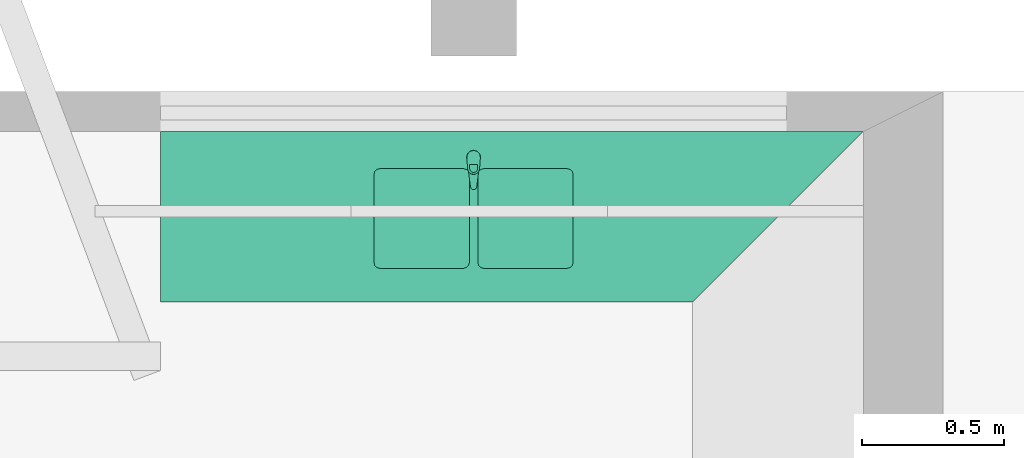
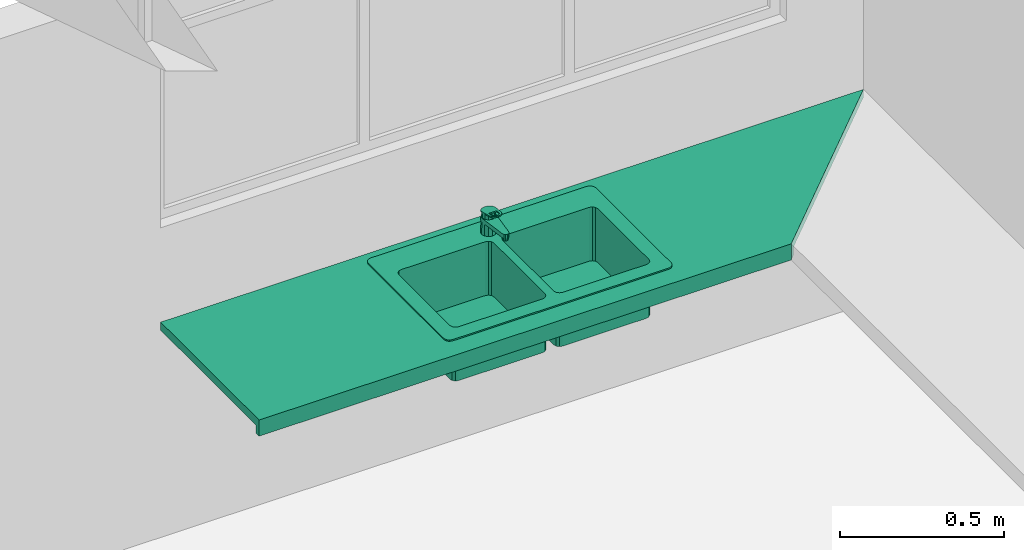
# One storey, part 15 of 16: 1 flow terminal.
"""IFC2X3 building model written with IfcOpenShell, lengths in millimetres."""

import ifcopenshell
import ifcopenshell.guid

model = None  # the IFC model being written
_history = None  # IfcOwnerHistory: only IFC2X3 demands one
_inside = {}  # id of a spatial element -> (the spatial element, [elements in it])
_under = {}  # id of a project, library or spatial element -> (it, [spatial elements below it])
_declared = {}  # id of a project -> (the project, [libraries it declares])
_typed = {}  # id of a type object -> (the type object, [elements of that type])
_made_of = {}  # id of a material, layer set ... -> (it, [elements and type objects made of it])


def new_model(schema):
    """Start an empty IFC model of exactly this schema.

    Asked for "IFC4X3", IfcOpenShell would pick the latest addendum, in which some entities
    have other attributes; the version numbers below select the first issue.
    IFC2X3 requires an IfcOwnerHistory on every rooted entity: one is made here for all.
    """
    global model, _history
    if schema == "IFC4X3":
        model = ifcopenshell.file(schema_version=(4, 3, 0, 0))
    else:
        model = ifcopenshell.file(schema=schema)
    _inside.clear()
    _under.clear()
    _declared.clear()
    _typed.clear()
    _made_of.clear()
    _history = None
    if model.schema == "IFC2X3":
        org = make("IfcOrganization", Name="unknown")
        user = make(
            "IfcPersonAndOrganization",
            ThePerson=make("IfcPerson", FamilyName="unknown"),
            TheOrganization=org,
        )
        app = make(
            "IfcApplication",
            ApplicationDeveloper=org,
            Version="unknown",
            ApplicationFullName="unknown",
            ApplicationIdentifier="unknown",
        )
        _history = make(
            "IfcOwnerHistory",
            OwningUser=user,
            OwningApplication=app,
            ChangeAction="ADDED",
            CreationDate=0,
        )
    return model


def make(cls, **values):
    """One entity of the class cls with the attributes given. An attribute that is None is left unset."""
    return model.create_entity(
        cls, **{name: value for name, value in values.items() if value is not None}
    )


def entity(cls, *values):
    """Any entity or typed value of the class cls, its attributes in the order of the schema. None: left unset."""
    e = model.create_entity(cls)
    for i, value in enumerate(values):
        if value is not None:
            e[i] = value
    return e


def rooted(cls, **values):
    """An entity with a GlobalId (a new one), such as an element, a storey or a relation."""
    return make(cls, GlobalId=ifcopenshell.guid.new(), OwnerHistory=_history, **values)


def si_unit(unit_type, name, prefix=None):
    """IfcSIUnit, for example si_unit("LENGTHUNIT", "METRE", prefix="MILLI")."""
    return make("IfcSIUnit", UnitType=unit_type, Prefix=prefix, Name=name)


def converted_unit(unit_type, name, factor, base, dimensions=None, offset=None):
    """IfcConversionBasedUnit, such as the inch: factor (a typed value) times the base unit."""
    return make(
        "IfcConversionBasedUnit"
        if offset is None
        else "IfcConversionBasedUnitWithOffset",
        ConversionOffset=offset,
        Dimensions=None
        if dimensions is None
        else entity("IfcDimensionalExponents", *dimensions),
        UnitType=unit_type,
        Name=name,
        ConversionFactor=make(
            "IfcMeasureWithUnit", ValueComponent=factor, UnitComponent=base
        ),
    )


def derived_unit(unit_type, elements):
    """IfcDerivedUnit: a product of units, each with its exponent."""
    return make(
        "IfcDerivedUnit",
        Elements=[
            make("IfcDerivedUnitElement", Unit=unit, Exponent=power)
            for unit, power in elements
        ],
        UnitType=unit_type,
    )


def money_unit(currency):
    """IfcMonetaryUnit."""
    return make("IfcMonetaryUnit", Currency=currency)


def assignment(units):
    """IfcUnitAssignment: the units of a project."""
    return None if units is None else make("IfcUnitAssignment", Units=units)


def point(xyz):
    """IfcCartesianPoint."""
    return None if xyz is None else make("IfcCartesianPoint", Coordinates=xyz)


def direction(xyz):
    """IfcDirection."""
    return None if xyz is None else make("IfcDirection", DirectionRatios=xyz)


def frame(location, z_axis=None, x_axis=None):
    """IfcAxis2Placement3D, a coordinate frame: its origin and axes. An axis left out is left unset."""
    return make(
        "IfcAxis2Placement3D",
        Location=point(location),
        Axis=direction(z_axis),
        RefDirection=direction(x_axis),
    )


def origin_with_axes():
    """The frame at (0, 0, 0) with the z axis (0, 0, 1) and the x axis (1, 0, 0) written out."""
    return frame((0.0, 0.0, 0.0), z_axis=(0.0, 0.0, 1.0), x_axis=(1.0, 0.0, 0.0))


def place(relative_to, where):
    """IfcLocalPlacement: puts the frame where relative to a parent placement (None: the world)."""
    return make(
        "IfcLocalPlacement", PlacementRelTo=relative_to, RelativePlacement=where
    )


def context(
    kind, dimensions, precision=None, world=None, true_north=None, identifier=None
):
    """IfcGeometricRepresentationContext, for example the 3D "Model" context."""
    return make(
        "IfcGeometricRepresentationContext",
        ContextIdentifier=identifier,
        ContextType=kind,
        CoordinateSpaceDimension=dimensions,
        Precision=precision,
        WorldCoordinateSystem=world,
        TrueNorth=true_north,
    )


def subcontext(parent, identifier, kind, view, scale=None):
    """IfcGeometricRepresentationSubContext, for example "Body" below "Model"."""
    return make(
        "IfcGeometricRepresentationSubContext",
        ContextIdentifier=identifier,
        ContextType=kind,
        ParentContext=parent,
        TargetScale=scale,
        TargetView=view,
    )


def project(units=None, contexts=None):
    """IfcProject with its units and contexts."""
    return rooted(
        "IfcProject",
        Name="project",
        RepresentationContexts=contexts,
        UnitsInContext=assignment(units),
    )


def spatial(cls, under=None, at=None, **own):
    """A site, building, storey or space (cls), placed at a placement, below another one or the project."""
    s = rooted(cls, ObjectPlacement=at, **own)
    if under is not None:
        _under.setdefault(under.id(), (under, []))[1].append(s)
    return s


def faces_of(points, faces, orient=None, outer=None):
    """IfcFace entities. A face is a list of loops; a loop is a list of indices into points, from 0.

    orient and outer hold one flag for each loop. By default every Orientation is true, the
    first loop of a face is its IfcFaceOuterBound and the others are IfcFaceBound.
    """
    made = []
    for i, loops in enumerate(faces):
        bounds = []
        for j, loop in enumerate(loops):
            is_outer = j == 0 if outer is None else outer[i][j]
            bounds.append(
                make(
                    "IfcFaceOuterBound" if is_outer else "IfcFaceBound",
                    Bound=make("IfcPolyLoop", Polygon=[points[k] for k in loop]),
                    Orientation=True if orient is None else orient[i][j],
                )
            )
        made.append(make("IfcFace", Bounds=bounds))
    return made


def open_shell(faces, orient=None, outer=None):
    """The faces of one IfcOpenShell. surface_model builds it on its shared points."""
    return ("IfcOpenShell", faces, orient, outer)


def faceted_brep(points, faces, orient=None, outer=None, voids=None):
    """IfcFacetedBrep: a solid bounded by flat faces; with voids (closed shells), ...WithVoids."""
    shared = [point(p) for p in points]
    hull = make("IfcClosedShell", CfsFaces=faces_of(shared, faces, orient, outer))
    if voids is None:
        return make("IfcFacetedBrep", Outer=hull)
    return make(
        "IfcFacetedBrepWithVoids",
        Outer=hull,
        Voids=[
            make(cls, CfsFaces=faces_of(shared, fs, o, b)) for cls, fs, o, b in voids
        ],
    )


def surface_model(cls, points, shells):
    """IfcFaceBasedSurfaceModel or IfcShellBasedSurfaceModel (cls): surfaces that need not close."""
    shared = [point(p) for p in points]
    made = [make(c, CfsFaces=faces_of(shared, fs, o, b)) for c, fs, o, b in shells]
    if cls == "IfcFaceBasedSurfaceModel":
        return make(cls, FbsmFaces=made)
    return make(cls, SbsmBoundary=made)


def shape(context_of_items, identifier, shape_type, items):
    """IfcShapeRepresentation: the items that make up one representation, for example the "Body"."""
    return make(
        "IfcShapeRepresentation",
        ContextOfItems=context_of_items,
        RepresentationIdentifier=identifier,
        RepresentationType=shape_type,
        Items=items,
    )


def made_of(thing, what):
    """Note that an element or type object is made of a material, layer set ...; save() writes the relation."""
    if what is not None:
        _made_of.setdefault(what.id(), (what, []))[1].append(thing)
    return thing


def type_object(cls, material=None, **own):
    """A type object (cls), such as IfcWallType, which elements share."""
    return made_of(rooted(cls, **own), material)


def element(
    cls,
    number,
    at=None,
    inside=None,
    cuts=None,
    type_object=None,
    material=None,
    context=None,
    identifier="Body",
    shape_type=None,
    held_by="IfcProductDefinitionShape",
    body=None,
    shapes=None,
    **own,
):
    """One element of the class cls, such as IfcWall. Its Tag is "e" and its number.

    at: its placement. inside: the storey or other place that contains it. cuts: it is an
    opening in that element (IfcRelVoidsElement). A single representation is given by context,
    identifier, shape_type and body (its items); several are given by shapes. held_by: the class
    of the entity that holds the representations. save() writes the other relations.
    """
    e = rooted(cls, Tag="e%d" % number, ObjectPlacement=at, **own)
    if body is not None:
        shapes = [shape(context, identifier, shape_type, body)]
    if shapes is not None:
        e.Representation = make(held_by, Representations=shapes)
    if inside is not None:
        _inside.setdefault(inside.id(), (inside, []))[1].append(e)
    if cuts is not None:
        rooted(
            "IfcRelVoidsElement", RelatingBuildingElement=cuts, RelatedOpeningElement=e
        )
    if type_object is not None:
        _typed.setdefault(type_object.id(), (type_object, []))[1].append(e)
    return made_of(e, material)


def aggregate(whole, parts):
    """IfcRelAggregates: a whole, such as a stair, and the parts it consists of."""
    return rooted("IfcRelAggregates", RelatingObject=whole, RelatedObjects=parts)


def save(model, path):
    """Write the relations noted so far, then the file.

    IfcRelAggregates (storeys below a building ...), IfcRelContainedInSpatialStructure (elements
    in a storey), IfcRelDefinesByType, IfcRelAssociatesMaterial and IfcRelDeclares: one each for
    every whole, place, type object, material and project.
    """
    for whole, parts in _under.values():
        aggregate(whole, parts)
    for where, things in _inside.values():
        rooted(
            "IfcRelContainedInSpatialStructure",
            RelatedElements=things,
            RelatingStructure=where,
        )
    for kind, things in _typed.values():
        rooted("IfcRelDefinesByType", RelatedObjects=things, RelatingType=kind)
    for what, things in _made_of.values():
        rooted("IfcRelAssociatesMaterial", RelatedObjects=things, RelatingMaterial=what)
    for by, libraries in _declared.values():
        rooted("IfcRelDeclares", RelatingContext=by, RelatedDefinitions=libraries)
    model.write(path)


model = new_model("IFC2X3")

# Units and contexts
model_context = context("Model", 3, precision=0.01, world=origin_with_axes(), true_north=direction((0.293984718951, 0.955810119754)))
body_context = subcontext(model_context, "Body", "Model", "MODEL_VIEW")
ifc_project = project(units=[si_unit("LENGTHUNIT", "METRE", prefix="MILLI"), si_unit("AREAUNIT", "SQUARE_METRE"), si_unit("VOLUMEUNIT", "CUBIC_METRE"), converted_unit("PLANEANGLEUNIT", "DEGREE", entity("IfcPlaneAngleMeasure", 0.0174532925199), si_unit("PLANEANGLEUNIT", "RADIAN"), dimensions=[0, 0, 0, 0, 0, 0, 0]), si_unit("SOLIDANGLEUNIT", "STERADIAN"), money_unit("USD"), converted_unit("TIMEUNIT", "Year", entity("IfcTimeMeasure", 31556926.0), si_unit("TIMEUNIT", "SECOND"), dimensions=[0, 0, 1, 0, 0, 0, 0]), si_unit("MASSUNIT", "GRAM", prefix="KILO"), si_unit("THERMODYNAMICTEMPERATUREUNIT", "DEGREE_CELSIUS"), si_unit("LUMINOUSINTENSITYUNIT", "LUMEN"), si_unit("ENERGYUNIT", "JOULE", prefix="MEGA"), derived_unit("THERMALCONDUCTANCEUNIT", [(si_unit("POWERUNIT", "WATT"), 1), (si_unit("LENGTHUNIT", "METRE"), -1), (si_unit("THERMODYNAMICTEMPERATUREUNIT", "KELVIN"), -1)]), derived_unit("SPECIFICHEATCAPACITYUNIT", [(si_unit("ENERGYUNIT", "JOULE"), 1), (si_unit("MASSUNIT", "GRAM", prefix="KILO"), -1), (si_unit("THERMODYNAMICTEMPERATUREUNIT", "KELVIN"), -1)]), derived_unit("MASSDENSITYUNIT", [(si_unit("MASSUNIT", "GRAM", prefix="KILO"), 1), (si_unit("VOLUMEUNIT", "CUBIC_METRE"), -1)])], contexts=[model_context])

# Site, building, storey
site_placement = place(None, origin_with_axes())
site = spatial("IfcSite", under=ifc_project, at=site_placement, Name="Local", CompositionType="ELEMENT")
building_placement = place(site_placement, origin_with_axes())
building = spatial("IfcBuilding", under=site, at=building_placement, Name="Construção", CompositionType="ELEMENT")
storey_placement = place(building_placement, origin_with_axes())
storey = spatial("IfcBuildingStorey", under=building, at=storey_placement, Name="Pavimento Térreo", CompositionType="ELEMENT", Elevation=0.0)

# Flow terminal
sanitary_terminal_type = type_object("IfcSanitaryTerminalType", Name="Bancada 23", PredefinedType="SINK")
flow_terminal_placement = place(storey_placement, frame((12729.6450727, 12660.6321979, 0.0), z_axis=(0.0, 0.0, 1.0), x_axis=(1.0, 0.0, 0.0)))
element("IfcFlowTerminal", 1, at=flow_terminal_placement, inside=storey, type_object=sanitary_terminal_type, Name="Bancada-cozinha", context=body_context, shape_type="SurfaceModel", body=[
    surface_model("IfcShellBasedSurfaceModel", [(770.0, -480.95, 705.0), (1065.0, -480.95, 705.0), (1065.0, -480.95, 900.0), (770.0, -480.95, 900.0), (760.0, -478.270508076, 705.0), (752.679491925, -470.95, 705.0), (750.0, -460.95, 705.0), (750.0, -150.95, 705.0), (752.679491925, -140.95, 705.0), (760.0, -133.629491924, 705.0), (770.0, -130.95, 705.0), (1065.0, -130.95, 705.0), (1075.0, -133.629491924, 705.0), (1082.32050808, -140.95, 705.0), (1085.0, -150.95, 705.0), (1085.0, -460.95, 705.0), (1082.32050808, -470.95, 705.0), (1075.0, -478.270508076, 705.0), (1075.0, -478.270508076, 900.0), (760.0, -478.270508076, 900.0), (752.679491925, -470.95, 900.0), (750.0, -460.95, 900.0), (750.0, -150.95, 900.0), (752.679491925, -140.95, 900.0), (760.0, -133.629491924, 900.0), (770.0, -130.95, 900.0), (1065.0, -130.95, 900.0), (1075.0, -133.629491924, 900.0), (1082.32050808, -140.95, 900.0), (1085.0, -150.95, 900.0), (1085.0, -460.95, 900.0), (1082.32050808, -470.95, 900.0)], [open_shell([[[0, 1, 2, 3]], [[0, 4, 5, 6, 7, 8, 9, 10, 11, 12, 13, 14, 15, 16, 17, 1]], [[1, 17, 18, 2]], [[4, 0, 3, 19]], [[5, 4, 19, 20]], [[6, 5, 20, 21]], [[7, 6, 21, 22]], [[8, 7, 22, 23]], [[9, 8, 23, 24]], [[10, 9, 24, 25]], [[11, 10, 25, 26]], [[12, 11, 26, 27]], [[13, 12, 27, 28]], [[14, 13, 28, 29]], [[15, 14, 29, 30]], [[16, 15, 30, 31]], [[17, 16, 31, 18]]])]),
    surface_model("IfcShellBasedSurfaceModel", [(1135.0, -480.95, 705.0), (1430.0, -480.95, 705.0), (1430.0, -480.95, 900.0), (1135.0, -480.95, 900.0), (1125.0, -478.270508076, 705.0), (1117.67949192, -470.95, 705.0), (1115.0, -460.95, 705.0), (1115.0, -150.95, 705.0), (1117.67949192, -140.95, 705.0), (1125.0, -133.629491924, 705.0), (1135.0, -130.95, 705.0), (1430.0, -130.95, 705.0), (1440.0, -133.629491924, 705.0), (1447.32050808, -140.95, 705.0), (1450.0, -150.95, 705.0), (1450.0, -460.95, 705.0), (1447.32050808, -470.95, 705.0), (1440.0, -478.270508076, 705.0), (1440.0, -478.270508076, 900.0), (1125.0, -478.270508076, 900.0), (1117.67949192, -470.95, 900.0), (1115.0, -460.95, 900.0), (1115.0, -150.95, 900.0), (1117.67949192, -140.95, 900.0), (1125.0, -133.629491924, 900.0), (1135.0, -130.95, 900.0), (1430.0, -130.95, 900.0), (1440.0, -133.629491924, 900.0), (1447.32050808, -140.95, 900.0), (1450.0, -150.95, 900.0), (1450.0, -460.95, 900.0), (1447.32050808, -470.95, 900.0)], [open_shell([[[0, 1, 2, 3]], [[0, 4, 5, 6, 7, 8, 9, 10, 11, 12, 13, 14, 15, 16, 17, 1]], [[1, 17, 18, 2]], [[4, 0, 3, 19]], [[5, 4, 19, 20]], [[6, 5, 20, 21]], [[7, 6, 21, 22]], [[8, 7, 22, 23]], [[9, 8, 23, 24]], [[10, 9, 24, 25]], [[11, 10, 25, 26]], [[12, 11, 26, 27]], [[13, 12, 27, 28]], [[14, 13, 28, 29]], [[15, 14, 29, 30]], [[16, 15, 30, 31]], [[17, 16, 31, 18]]])]),
    faceted_brep([(720.0, -530.95, 900.0), (1480.0, -530.95, 900.0), (1480.0, -530.95, 905.0), (720.0, -530.95, 905.0), (710.0, -528.270508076, 900.0), (702.679491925, -520.95, 900.0), (700.0, -510.95, 900.0), (700.0, -50.95, 900.0), (702.679491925, -40.95, 900.0), (710.0, -33.6294919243, 900.0), (720.0, -30.95, 900.0), (1480.0, -30.95, 900.0), (1490.0, -33.6294919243, 900.0), (1497.32050808, -40.95, 900.0), (1500.0, -50.95, 900.0), (1500.0, -510.95, 900.0), (1497.32050808, -520.95, 900.0), (1490.0, -528.270508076, 900.0), (770.0, -480.95, 900.0), (1065.0, -480.95, 900.0), (1075.0, -478.270508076, 900.0), (1082.32050808, -470.95, 900.0), (1085.0, -460.95, 900.0), (1085.0, -150.95, 900.0), (1082.32050808, -140.95, 900.0), (1075.0, -133.629491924, 900.0), (1065.0, -130.95, 900.0), (770.0, -130.95, 900.0), (760.0, -133.629491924, 900.0), (752.679491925, -140.95, 900.0), (750.0, -150.95, 900.0), (750.0, -460.95, 900.0), (752.679491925, -470.95, 900.0), (760.0, -478.270508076, 900.0), (1135.0, -480.95, 900.0), (1430.0, -480.95, 900.0), (1440.0, -478.270508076, 900.0), (1447.32050808, -470.95, 900.0), (1450.0, -460.95, 900.0), (1450.0, -150.95, 900.0), (1447.32050808, -140.95, 900.0), (1440.0, -133.629491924, 900.0), (1430.0, -130.95, 900.0), (1135.0, -130.95, 900.0), (1125.0, -133.629491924, 900.0), (1117.67949192, -140.95, 900.0), (1115.0, -150.95, 900.0), (1115.0, -460.95, 900.0), (1117.67949192, -470.95, 900.0), (1125.0, -478.270508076, 900.0), (1490.0, -528.270508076, 905.0), (1497.32050808, -520.95, 905.0), (1500.0, -510.95, 905.0), (1500.0, -50.95, 905.0), (1497.32050808, -40.95, 905.0), (1490.0, -33.6294919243, 905.0), (1480.0, -30.95, 905.0), (720.0, -30.95, 905.0), (710.0, -33.6294919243, 905.0), (702.679491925, -40.95, 905.0), (700.0, -50.95, 905.0), (700.0, -510.95, 905.0), (702.679491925, -520.95, 905.0), (710.0, -528.270508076, 905.0), (770.0, -480.95, 905.0), (760.0, -478.270508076, 905.0), (752.679491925, -470.95, 905.0), (750.0, -460.95, 905.0), (750.0, -150.95, 905.0), (752.679491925, -140.95, 905.0), (760.0, -133.629491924, 905.0), (770.0, -130.95, 905.0), (1065.0, -130.95, 905.0), (1075.0, -133.629491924, 905.0), (1082.32050808, -140.95, 905.0), (1085.0, -150.95, 905.0), (1085.0, -460.95, 905.0), (1082.32050808, -470.95, 905.0), (1075.0, -478.270508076, 905.0), (1065.0, -480.95, 905.0), (1135.0, -480.95, 905.0), (1125.0, -478.270508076, 905.0), (1117.67949192, -470.95, 905.0), (1115.0, -460.95, 905.0), (1115.0, -150.95, 905.0), (1117.67949192, -140.95, 905.0), (1125.0, -133.629491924, 905.0), (1135.0, -130.95, 905.0), (1430.0, -130.95, 905.0), (1440.0, -133.629491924, 905.0), (1447.32050808, -140.95, 905.0), (1450.0, -150.95, 905.0), (1450.0, -460.95, 905.0), (1447.32050808, -470.95, 905.0), (1440.0, -478.270508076, 905.0), (1430.0, -480.95, 905.0)], [[[0, 1, 2, 3]], [[0, 4, 5, 6, 7, 8, 9, 10, 11, 12, 13, 14, 15, 16, 17, 1], [18, 19, 20, 21, 22, 23, 24, 25, 26, 27, 28, 29, 30, 31, 32, 33], [34, 35, 36, 37, 38, 39, 40, 41, 42, 43, 44, 45, 46, 47, 48, 49]], [[1, 17, 50, 2]], [[3, 2, 50, 51, 52, 53, 54, 55, 56, 57, 58, 59, 60, 61, 62, 63], [64, 65, 66, 67, 68, 69, 70, 71, 72, 73, 74, 75, 76, 77, 78, 79], [80, 81, 82, 83, 84, 85, 86, 87, 88, 89, 90, 91, 92, 93, 94, 95]], [[4, 0, 3, 63]], [[5, 4, 63, 62]], [[6, 5, 62, 61]], [[7, 6, 61, 60]], [[8, 7, 60, 59]], [[9, 8, 59, 58]], [[10, 9, 58, 57]], [[11, 10, 57, 56]], [[12, 11, 56, 55]], [[13, 12, 55, 54]], [[14, 13, 54, 53]], [[15, 14, 53, 52]], [[16, 15, 52, 51]], [[17, 16, 51, 50]], [[19, 18, 64, 79]], [[20, 19, 79, 78]], [[21, 20, 78, 77]], [[22, 21, 77, 76]], [[23, 22, 76, 75]], [[24, 23, 75, 74]], [[25, 24, 74, 73]], [[26, 25, 73, 72]], [[27, 26, 72, 71]], [[28, 27, 71, 70]], [[29, 28, 70, 69]], [[30, 29, 69, 68]], [[31, 30, 68, 67]], [[32, 31, 67, 66]], [[33, 32, 66, 65]], [[18, 33, 65, 64]], [[35, 34, 80, 95]], [[36, 35, 95, 94]], [[37, 36, 94, 93]], [[38, 37, 93, 92]], [[39, 38, 92, 91]], [[40, 39, 91, 90]], [[41, 40, 90, 89]], [[42, 41, 89, 88]], [[43, 42, 88, 87]], [[44, 43, 87, 86]], [[45, 44, 86, 85]], [[46, 45, 85, 84]], [[47, 46, 84, 83]], [[48, 47, 83, 82]], [[49, 48, 82, 81]], [[34, 49, 81, 80]]]),
    faceted_brep([(1112.5, -69.2993649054, 905.0), (1100.0, -65.95, 905.0), (1100.0, -69.7480769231, 980.961538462), (1110.58732277, -72.6122190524, 981.507089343), (1121.65063509, -78.45, 905.0), (1125.0, -90.95, 905.0), (1121.65063509, -103.45, 905.0), (1112.5, -112.600635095, 905.0), (1100.0, -115.95, 905.0), (1087.5, -112.600635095, 905.0), (1078.34936491, -103.45, 905.0), (1075.0, -90.95, 905.0), (1078.34936491, -78.45, 905.0), (1087.5, -69.2993649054, 905.0), (1089.41267723, -72.6122190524, 981.507089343), (1081.72644961, -80.3997607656, 982.990430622), (1079.0, -90.95, 985.0), (1081.89965862, -101.400236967, 986.990521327), (1089.5858941, -108.987760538, 988.435763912), (1100.0, -111.751886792, 988.962264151), (1110.4141059, -108.987760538, 988.435763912), (1118.10034138, -101.400236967, 986.990521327), (1121.0, -90.95, 985.0), (1118.27355039, -80.3997607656, 982.990430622)], [[[0, 1, 2, 3]], [[0, 4, 5, 6, 7, 8, 9, 10, 11, 12, 13, 1]], [[1, 13, 14, 2]], [[3, 2, 14, 15, 16, 17, 18, 19, 20, 21, 22, 23]], [[4, 0, 3, 23]], [[5, 4, 23, 22]], [[6, 5, 22, 21]], [[7, 6, 21, 20]], [[8, 7, 20, 19]], [[9, 8, 19, 18]], [[10, 9, 18, 17]], [[11, 10, 17, 16]], [[12, 11, 16, 15]], [[13, 12, 15, 14]]]),
    faceted_brep([(1109.0, -193.95, 940.0), (1107.79422863, -189.45, 940.0), (1107.79422863, -189.45, 950.0), (1109.0, -193.95, 950.0), (1107.79422863, -198.45, 940.0), (1104.5, -201.744228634, 940.0), (1100.0, -202.95, 940.0), (1095.5, -201.744228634, 940.0), (1092.20577137, -198.45, 940.0), (1091.0, -193.95, 940.0), (1092.20577137, -189.45, 940.0), (1095.5, -186.155771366, 940.0), (1100.0, -184.95, 940.0), (1104.5, -186.155771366, 940.0), (1104.5, -186.155771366, 950.0), (1100.0, -184.95, 950.0), (1095.5, -186.155771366, 950.0), (1092.20577137, -189.45, 950.0), (1091.0, -193.95, 950.0), (1092.20577137, -198.45, 950.0), (1095.5, -201.744228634, 950.0), (1100.0, -202.95, 950.0), (1104.5, -201.744228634, 950.0), (1107.79422863, -198.45, 950.0)], [[[0, 1, 2, 3]], [[0, 4, 5, 6, 7, 8, 9, 10, 11, 12, 13, 1]], [[1, 13, 14, 2]], [[3, 2, 14, 15, 16, 17, 18, 19, 20, 21, 22, 23]], [[4, 0, 3, 23]], [[5, 4, 23, 22]], [[6, 5, 22, 21]], [[7, 6, 21, 20]], [[8, 7, 20, 19]], [[9, 8, 19, 18]], [[10, 9, 18, 17]], [[11, 10, 17, 16]], [[12, 11, 16, 15]], [[13, 12, 15, 14]]]),
    faceted_brep([(1087.12828238, -70.6936961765, 965.0), (1078.27219469, -80.7567946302, 965.0), (1076.1946, -93.9999, 965.0), (1089.08800916, -195.338371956, 965.0), (1090.97112453, -200.233194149, 965.0), (1094.9066755, -203.699726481, 965.0), (1100.00003627, -204.94996004, 965.0), (1105.09338879, -203.699692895, 965.0), (1109.0289169, -200.233134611, 965.0), (1110.912, -195.3383, 965.0), (1123.80539974, -93.9999020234, 965.0), (1121.72780617, -80.756796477, 965.0), (1112.87171935, -70.6936972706, 965.0), (1100.00000102, -66.950021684, 965.0), (1111.0, -71.8974411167, 965.0), (1119.05255888, -79.95, 965.0), (1122.0, -90.95, 965.0), (1119.05255888, -101.95, 965.0), (1111.0, -110.002558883, 965.0), (1100.0, -112.95, 965.0), (1089.0, -110.002558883, 965.0), (1080.94744112, -101.95, 965.0), (1078.0, -90.95, 965.0), (1080.94744112, -79.95, 965.0), (1089.0, -71.8974411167, 965.0), (1100.0, -68.95, 965.0), (1078.27219469, -80.7567946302, 950.0), (1087.12828238, -70.6936961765, 950.0), (1076.1946, -93.9999, 950.0), (1089.08800916, -195.338371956, 950.0), (1090.97112453, -200.233194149, 950.0), (1094.9066755, -203.699726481, 950.0), (1100.00003627, -204.94996004, 950.0), (1105.09338879, -203.699692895, 950.0), (1109.0289169, -200.233134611, 950.0), (1110.912, -195.3383, 950.0), (1123.80539974, -93.9999020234, 950.0), (1121.72780617, -80.756796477, 950.0), (1112.87171935, -70.6936972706, 950.0), (1100.00000102, -66.950021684, 950.0), (1111.375, -71.2479220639, 950.0), (1119.70207794, -79.575, 950.0), (1122.75, -90.95, 950.0), (1119.70207794, -102.325, 950.0), (1111.375, -110.652077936, 950.0), (1100.0, -113.7, 950.0), (1088.625, -110.652077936, 950.0), (1080.29792206, -102.325, 950.0), (1077.25, -90.95, 950.0), (1080.29792206, -79.575, 950.0), (1088.625, -71.2479220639, 950.0), (1100.0, -68.2, 950.0)], [[[0, 1, 2, 3, 4, 5, 6, 7, 8, 9, 10, 11, 12, 13], [14, 15, 16, 17, 18, 19, 20, 21, 22, 23, 24, 25]], [[26, 1, 0, 27]], [[28, 2, 1, 26]], [[29, 3, 2, 28]], [[30, 4, 3, 29]], [[31, 5, 4, 30]], [[32, 6, 5, 31]], [[33, 7, 6, 32]], [[34, 8, 7, 33]], [[35, 9, 8, 34]], [[36, 10, 9, 35]], [[37, 11, 10, 36]], [[38, 12, 11, 37]], [[39, 13, 12, 38]], [[27, 0, 13, 39]], [[40, 41, 15, 14]], [[41, 42, 16, 15]], [[42, 43, 17, 16]], [[43, 44, 18, 17]], [[44, 45, 19, 18]], [[20, 19, 45, 46]], [[21, 20, 46, 47]], [[22, 21, 47, 48]], [[23, 22, 48, 49]], [[24, 23, 49, 50]], [[50, 51, 25, 24]], [[51, 40, 14, 25]], [[32, 31, 30, 29, 28, 26, 27, 39, 38, 37, 36, 35, 34, 33], [44, 43, 42, 41, 40, 51, 50, 49, 48, 47, 46, 45]]]),
    faceted_brep([(1123.893, -92.6425693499, 985.322394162), (1121.29642141, -80.175281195, 982.947672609), (1121.29642141, -79.4268327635, 986.877026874), (1123.893, -91.8941209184, 989.251748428), (1120.94593649, -132.786702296, 992.968895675), (1117.66313912, -142.464366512, 994.812260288), (1110.06143529, -149.413746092, 996.135951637), (1099.99955735, -151.93561192, 996.616307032), (1089.93778764, -149.413329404, 996.135872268), (1082.33638205, -142.463635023, 994.812120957), (1079.054, -132.785834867, 992.968730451), (1076.10697953, -92.6422904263, 985.322341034), (1078.70370894, -80.1750325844, 982.947625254), (1087.52831848, -70.8588025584, 981.173105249), (1100.00014234, -67.4180354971, 980.517721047), (1112.47192457, -70.8589481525, 981.173132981), (1114.0, -116.490802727, 989.864914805), (1086.0, -116.490802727, 989.864914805), (1086.0, -131.306432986, 992.686939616), (1087.87564435, -138.182802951, 993.996724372), (1093.0, -143.216655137, 994.955553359), (1100.0, -145.059172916, 995.306509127), (1107.0, -143.216655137, 994.955553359), (1112.12435565, -138.182802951, 993.996724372), (1114.0, -131.306432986, 992.686939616), (1112.47192457, -70.1104997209, 985.102487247), (1100.00014234, -66.6695870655, 984.447075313), (1087.52831848, -70.1103541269, 985.102459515), (1078.70370894, -79.4265841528, 986.87697952), (1076.10697953, -91.8938419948, 989.251695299), (1079.054, -132.037386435, 996.898084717), (1082.33638205, -141.715186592, 998.741475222), (1089.93778764, -148.664880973, 1000.06522653), (1099.99955735, -151.187163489, 1000.5456613), (1110.06143529, -148.66529766, 1000.0653059), (1117.66313912, -141.71591808, 998.741614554), (1120.94593649, -132.038253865, 996.898249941), (1114.0, -115.742354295, 993.794269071), (1114.0, -130.557984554, 996.616293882), (1112.12435565, -137.434354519, 997.926078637), (1107.0, -142.468206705, 998.884907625), (1100.0, -144.310724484, 999.235863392), (1093.0, -142.468206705, 998.884907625), (1087.87564435, -137.434354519, 997.926078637), (1086.0, -130.557984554, 996.616293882), (1086.0, -115.742354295, 993.794269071)], [[[0, 1, 2, 3]], [[0, 4, 5, 6, 7, 8, 9, 10, 11, 12, 13, 14, 15, 1], [16, 17, 18, 19, 20, 21, 22, 23, 24]], [[1, 15, 25, 2]], [[3, 2, 25, 26, 27, 28, 29, 30, 31, 32, 33, 34, 35, 36], [37, 38, 39, 40, 41, 42, 43, 44, 45]], [[4, 0, 3, 36]], [[5, 4, 36, 35]], [[6, 5, 35, 34]], [[7, 6, 34, 33]], [[8, 7, 33, 32]], [[9, 8, 32, 31]], [[10, 9, 31, 30]], [[11, 10, 30, 29]], [[12, 11, 29, 28]], [[13, 12, 28, 27]], [[14, 13, 27, 26]], [[15, 14, 26, 25]], [[17, 16, 37, 45]], [[18, 17, 45, 44]], [[19, 18, 44, 43]], [[20, 19, 43, 42]], [[21, 20, 42, 41]], [[22, 21, 41, 40]], [[23, 22, 40, 39]], [[24, 23, 39, 38]], [[16, 24, 38, 37]]]),
    faceted_brep([(0.0, -580.0, 870.0), (0.0, -600.0, 900.0), (0.0, 0.0, 900.0), (0.0, 0.0, 870.0), (1890.00000003, -580.0, 870.0), (1870.00000003, -600.0, 900.0), (2470.00000003, 0.0, 900.0), (1475.0, -505.95, 900.0), (725.0, -505.95, 900.0), (725.0, -70.95, 900.0), (1475.0, -70.95, 900.0), (2470.00000003, 0.0, 870.0), (725.0, -70.95, 870.0), (725.0, -505.95, 870.0), (1475.0, -505.95, 870.0), (1475.0, -70.95, 870.0)], [[[0, 1, 2, 3]], [[1, 0, 4, 5]], [[2, 1, 5, 6], [7, 8, 9, 10]], [[3, 2, 6, 11]], [[0, 3, 11, 4], [12, 13, 14, 15]], [[5, 4, 11, 6]], [[13, 8, 7, 14]], [[13, 12, 9, 8]], [[12, 15, 10, 9]], [[14, 7, 10, 15]]]),
    faceted_brep([(0.0, -600.0, 900.0), (0.0, -600.0, 840.0), (1870.00000003, -600.0, 840.0), (1870.00000003, -600.0, 900.0), (0.0, -580.0, 840.0), (0.0, -580.0, 870.0), (1890.00000003, -580.0, 840.0), (1890.00000003, -580.0, 870.0)], [[[0, 1, 2, 3]], [[4, 1, 0, 5]], [[1, 4, 6, 2]], [[2, 6, 7, 3]], [[0, 3, 7, 5]], [[4, 5, 7, 6]]]),
])

save(model, "model.ifc")
